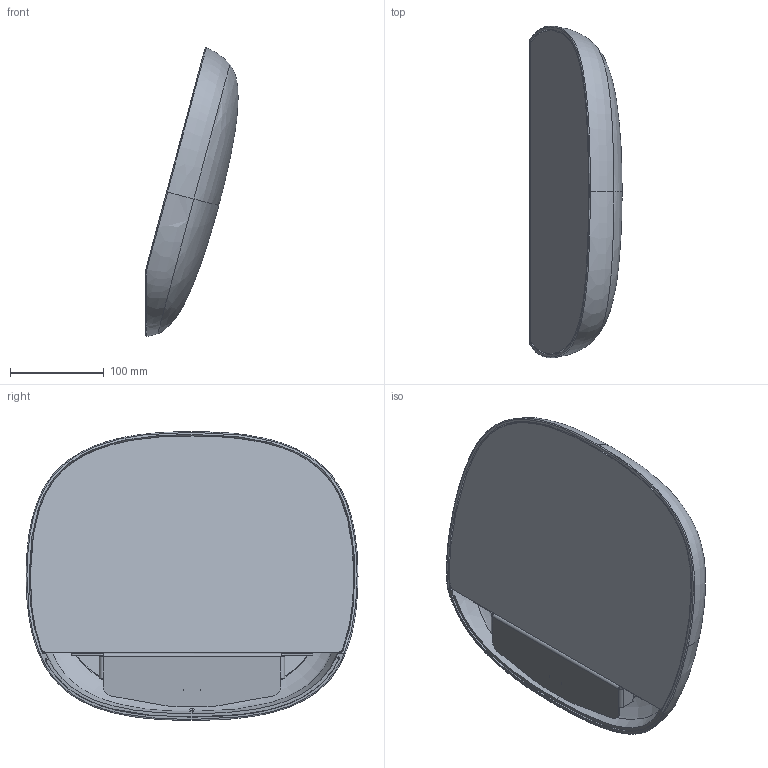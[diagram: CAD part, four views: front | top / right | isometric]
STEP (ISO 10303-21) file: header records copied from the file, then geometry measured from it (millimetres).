
FILE_DESCRIPTION((''),'2;1');
FILE_NAME('APPLIQUE_SW0001','2025-05-13T16:07:21',('elena.baldelli'),(''),'CREO PARAMETRIC BY PTC INC, 2020354','CREO PARAMETRIC BY PTC INC, 2020354','');
FILE_SCHEMA(('CONFIG_CONTROL_DESIGN'));
Length unit declared in the file: millimetre
Products named in the file (1): APPLIQUE_SW0001
Bounding box: 98.62 x 354.72 x 308.53 mm (x, y, z)
Surface area: 445242.2 mm2 (no closed solid volume)
Topology: 0 solids, 5 shells, 106 faces, 344 edges, 228 vertices
Faces by surface type: plane 43, bspline 40, cylinder 20, extrusion 3
Entity records: 7646 total; most frequent: CARTESIAN_POINT 5076, ORIENTED_EDGE 564, DIRECTION 376, EDGE_CURVE 336, VERTEX_POINT 228, B_SPLINE_CURVE_WITH_KNOTS 150, VECTOR 134, LINE 131
